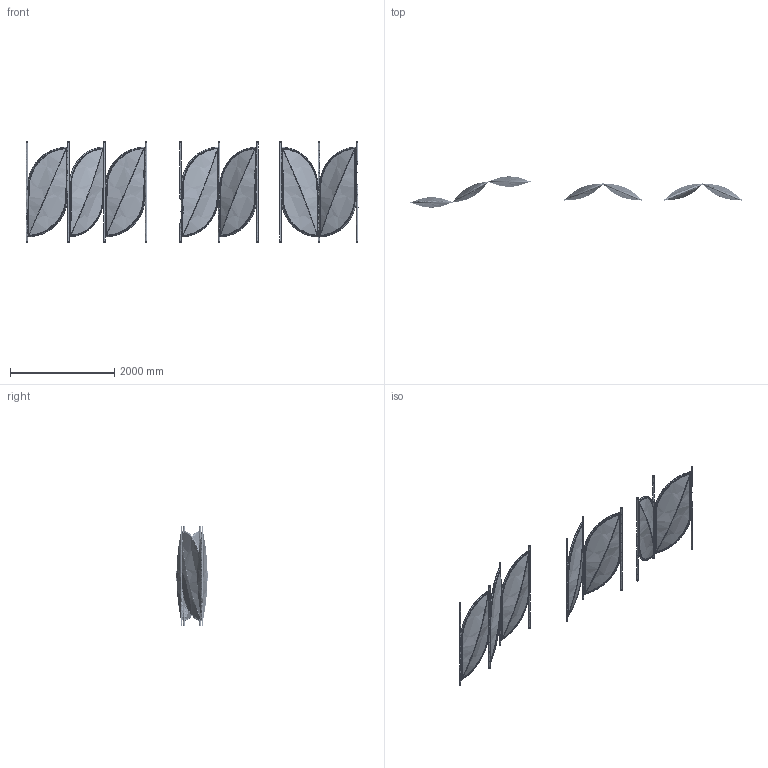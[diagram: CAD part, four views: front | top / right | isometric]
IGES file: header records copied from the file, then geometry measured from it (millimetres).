
Global section: file name: D:\modelli 3d x sito 2021\Feng\Feng.igs; native system: Rhinoceros ( Feb  3 2021 ); preprocessor: Trout Lake IGES 012 Feb  3 2021; date: 210419.090208; units: millimetre
Bounding box: 6384.21 x 598.43 x 1940 mm (x, y, z)
Surface area: 21850167.5 mm2 (no closed solid volume)
Topology: 0 solids, 0 shells, 1248 faces, 27542 edges, 26961 vertices
Faces by surface type: bspline 1248
